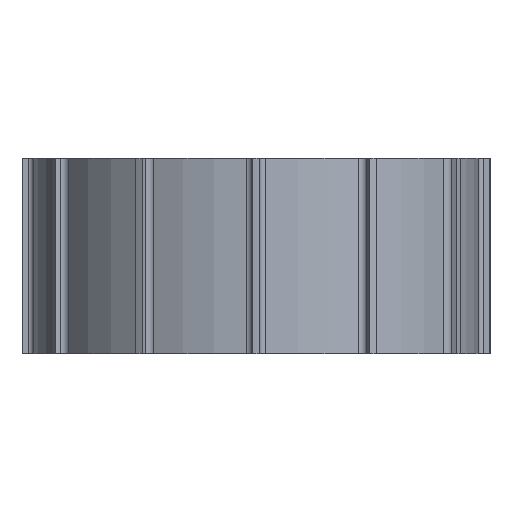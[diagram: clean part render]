
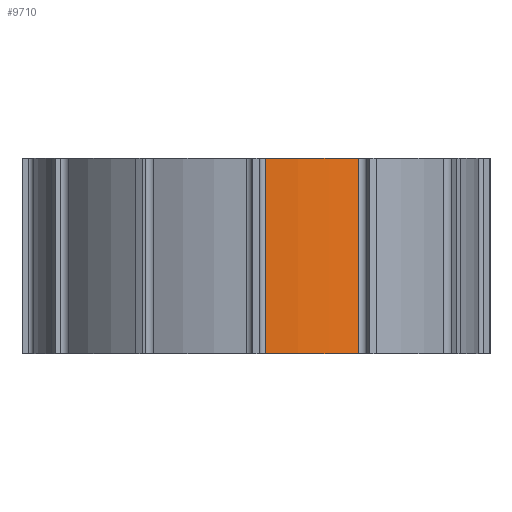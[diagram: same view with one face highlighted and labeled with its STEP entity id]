
A CAD part, front view. The second image highlights one B-rep face of the part: STEP entity #9710.
In plain terms, the highlighted cylindrical face has radius 57 mm (diameter 114 mm), a partial arc.
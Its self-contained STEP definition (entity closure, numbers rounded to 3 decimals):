
#367 = CARTESIAN_POINT ( 'NONE',  ( 26.364, -50.536, 50. ) ) ;
#668 = DIRECTION ( 'NONE',  ( -1., 0., 0. ) ) ;
#868 = DIRECTION ( 'NONE',  ( 0., 0., 1. ) ) ;
#1009 = LINE ( 'NONE', #5124, #3893 ) ;
#1098 = AXIS2_PLACEMENT_3D ( 'NONE', #4620, #1309, #668 ) ;
#1309 = DIRECTION ( 'NONE',  ( 0., 0., -1. ) ) ;
#1552 = CIRCLE ( 'NONE', #4868, 57. ) ;
#1808 = ORIENTED_EDGE ( 'NONE', *, *, #8985, .T. ) ;
#2916 = CARTESIAN_POINT ( 'NONE',  ( 2.436, -56.948, 50. ) ) ;
#3319 = DIRECTION ( 'NONE',  ( 1., 0., 0. ) ) ;
#3395 = CIRCLE ( 'NONE', #8043, 57. ) ;
#3433 = CARTESIAN_POINT ( 'NONE',  ( 0., 0., 50. ) ) ;
#3616 = DIRECTION ( 'NONE',  ( 0., 0., 1. ) ) ;
#3893 = VECTOR ( 'NONE', #3616, 1000. ) ;
#4433 = ORIENTED_EDGE ( 'NONE', *, *, #7767, .F. ) ;
#4496 = CARTESIAN_POINT ( 'NONE',  ( 26.364, -50.536, 0. ) ) ;
#4578 = FACE_OUTER_BOUND ( 'NONE', #8958, .T. ) ;
#4620 = CARTESIAN_POINT ( 'NONE',  ( 0., 0., 50. ) ) ;
#4868 = AXIS2_PLACEMENT_3D ( 'NONE', #3433, #6608, #3319 ) ;
#5124 = CARTESIAN_POINT ( 'NONE',  ( 26.364, -50.536, -6.26 ) ) ;
#5265 = CYLINDRICAL_SURFACE ( 'NONE', #1098, 57. ) ;
#5376 = VECTOR ( 'NONE', #868, 1000. ) ;
#5500 = CARTESIAN_POINT ( 'NONE',  ( 2.436, -56.948, 0. ) ) ;
#5682 = CARTESIAN_POINT ( 'NONE',  ( 0., 0., 0. ) ) ;
#5795 = DIRECTION ( 'NONE',  ( 1., 0., 0. ) ) ;
#6499 = LINE ( 'NONE', #6657, #5376 ) ;
#6608 = DIRECTION ( 'NONE',  ( 0., 0., 1. ) ) ;
#6657 = CARTESIAN_POINT ( 'NONE',  ( 2.436, -56.948, -5.749 ) ) ;
#7180 = VERTEX_POINT ( 'NONE', #4496 ) ;
#7263 = ORIENTED_EDGE ( 'NONE', *, *, #7885, .F. ) ;
#7767 = EDGE_CURVE ( 'NONE', #8883, #8641, #6499, .T. ) ;
#7885 = EDGE_CURVE ( 'NONE', #8641, #9574, #1552, .T. ) ;
#8043 = AXIS2_PLACEMENT_3D ( 'NONE', #5682, #8871, #5795 ) ;
#8641 = VERTEX_POINT ( 'NONE', #2916 ) ;
#8871 = DIRECTION ( 'NONE',  ( 0., 0., 1. ) ) ;
#8883 = VERTEX_POINT ( 'NONE', #5500 ) ;
#8958 = EDGE_LOOP ( 'NONE', ( #9102, #1808, #7263, #4433 ) ) ;
#8985 = EDGE_CURVE ( 'NONE', #7180, #9574, #1009, .T. ) ;
#9102 = ORIENTED_EDGE ( 'NONE', *, *, #10185, .T. ) ;
#9574 = VERTEX_POINT ( 'NONE', #367 ) ;
#9710 = ADVANCED_FACE ( 'NONE', ( #4578 ), #5265, .T. ) ;
#10185 = EDGE_CURVE ( 'NONE', #8883, #7180, #3395, .T. ) ;
